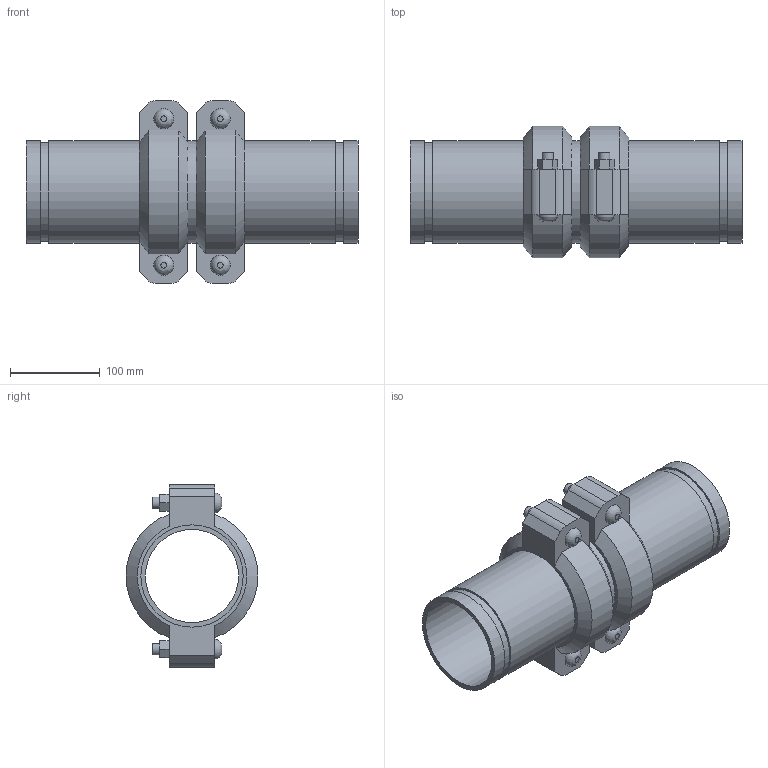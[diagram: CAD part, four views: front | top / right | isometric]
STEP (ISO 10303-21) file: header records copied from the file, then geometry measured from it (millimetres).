
FILE_DESCRIPTION(/* description */ ('VIC SS EXPANSION JOINT 2 COUPLINGS NEUTRAL STYLE 155P (OGS) (POTABLE WATER) ','CAx-IF Rec.Pracs.---Representation and Presentation of Product Manufacturing Information (PMI)---4.0---2014-10-13'),/* implementation_level */ '2;1');
FILE_NAME(/* name */ 'C:\Users\kkamble\AppData\Roaming\Autodesk\ApplicationPlugins\Victaulic.Temp\A659\Victaulic_SS_Expansion Joint_Neutral_2 Couplings_Style 155P (OGS)-Potable Water_2 Coup_Neut_4 (100).stp',/* time_stamp */ '2021-07-16T16:31:07+05:00',/* author */ ('kkamble'),/* organization */ ('Victaulic'),/* preprocessor_version */ 'ST-DEVELOPER v17.2',/* originating_system */ 'Autodesk Inventor 2019',/* authorisation */ '');
FILE_SCHEMA (('AP242_MANAGED_MODEL_BASED_3D_ENGINEERING_MIM_LF { 1 0 10303 442 1 1 4 }'));
Length unit declared in the file: inch
Products named in the file (4): 155P-04.0; Nipple-04.0; Nipple-04.0_1; 075-04.0
Assembly tree (5 placements, depth 2):
  155P-04.0
    Nipple-04.0  x2
    Nipple-04.0_1
    075-04.0  x2
Bounding box: 370.84 x 147.32 x 203.96 mm (x, y, z)
Volume: 1570043.6 mm3; surface area: 425195.5 mm2
Topology: 5 solids, 9 shells, 150 faces, 356 edges, 252 vertices
Faces by surface type: plane 90, cylinder 48, cone 8, bspline 4
Full cylindrical faces by diameter (mm): 12.7 x8, 14.605 x4, 103.988 x3, 107.95 x2, 110.084 x6, 114.3 x13
Entity records: 2753 total; most frequent: CARTESIAN_POINT 489, DIRECTION 453, ORIENTED_EDGE 386, EDGE_CURVE 193, AXIS2_PLACEMENT_3D 180, VERTEX_POINT 138, EDGE_LOOP 107, LINE 93
